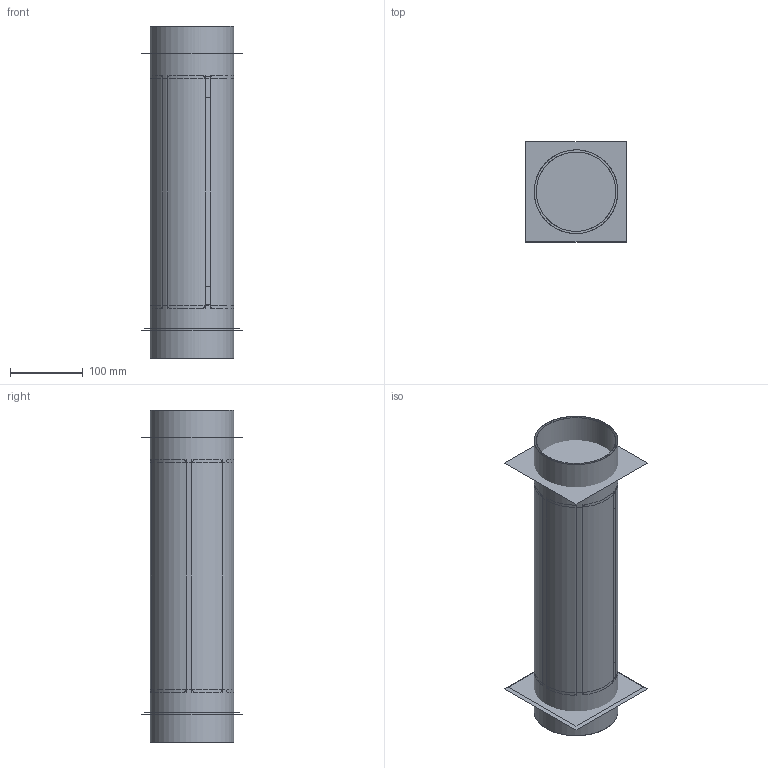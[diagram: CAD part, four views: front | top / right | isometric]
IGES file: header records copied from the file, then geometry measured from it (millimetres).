
Global section: file name: C:\Users\utente\Desktop\3d sito\BAMBU\BAMBU h 37.igs; native system: Rhinoceros ( Mar  9 2011 ); preprocessor: Trout Lake IGES 012 Mar  9 2011; date: 170517.150736; units: millimetre
Bounding box: 138 x 138 x 456 mm (x, y, z)
Surface area: 1167184.6 mm2 (no closed solid volume)
Topology: 0 solids, 0 shells, 69 faces, 270 edges, 264 vertices
Faces by surface type: bspline 69
